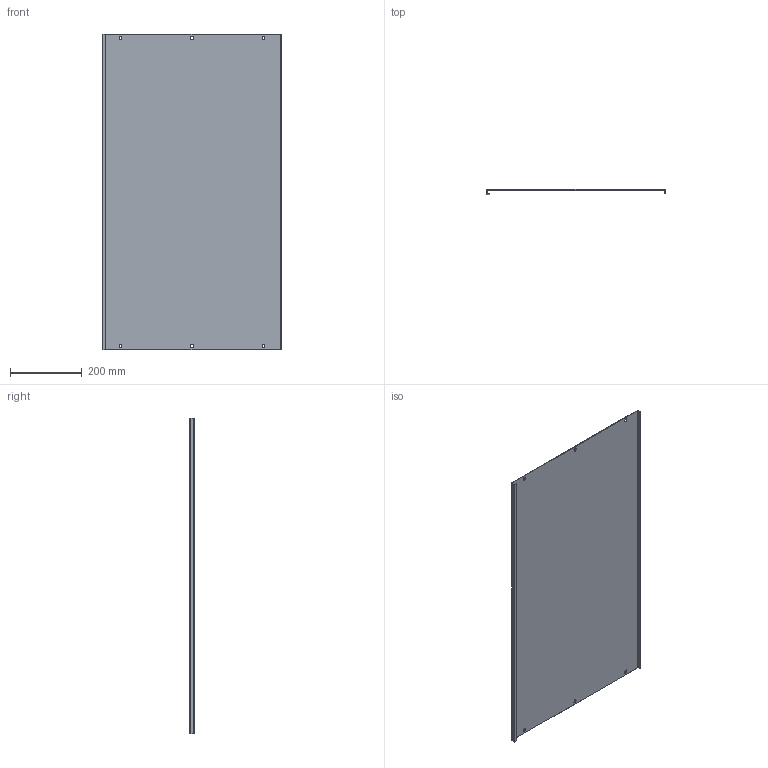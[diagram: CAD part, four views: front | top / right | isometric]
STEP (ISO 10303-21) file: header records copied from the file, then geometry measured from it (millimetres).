
FILE_DESCRIPTION (( 'STEP AP214' ), '1' );
FILE_NAME ('FO-00-PVS-050-100 Ïëàñòðîí ãëóõîé âíóòðåííèé 500õ1000.STEP', '2025-08-26T08:38:25', ( '' ), ( '' ), 'SwSTEP 2.0', 'SolidWorks 2023', '' );
FILE_SCHEMA (( 'AUTOMOTIVE_DESIGN' ));
Length unit declared in the file: millimetre
Products named in the file (1): FO-00-PVS-050-100 Пластрон глухой внутренний 500х1000
Bounding box: 498 x 12.5 x 879 mm (x, y, z)
Volume: 690358.6 mm3; surface area: 924939.1 mm2
Topology: 1 solids, 1 shells, 52 faces, 150 edges, 100 vertices
Faces by surface type: plane 34, cylinder 18
Entity records: 1757 total; most frequent: CARTESIAN_POINT 303, ORIENTED_EDGE 300, DIRECTION 292, EDGE_CURVE 150, LINE 114, VECTOR 114, VERTEX_POINT 100, AXIS2_PLACEMENT_3D 89
